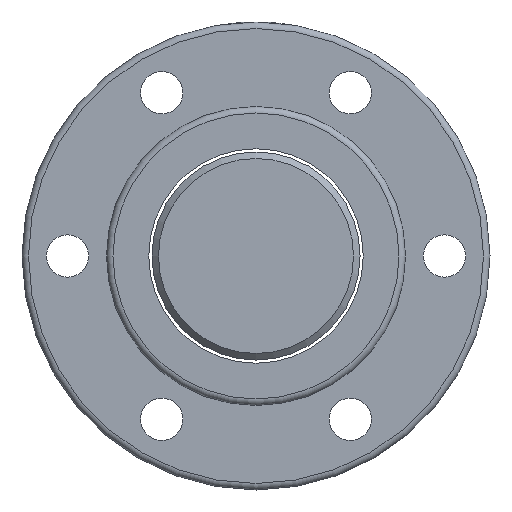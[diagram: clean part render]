
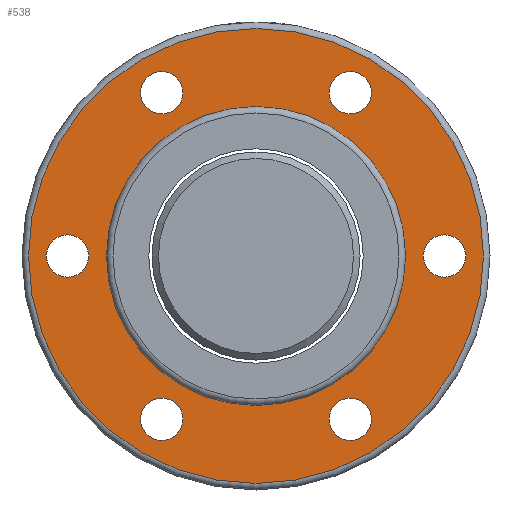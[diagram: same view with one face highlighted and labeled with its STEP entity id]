
A CAD part, left-side view. The second image highlights one B-rep face of the part: STEP entity #538.
In plain terms, the highlighted planar face has unit normal (-1, 0, 0).
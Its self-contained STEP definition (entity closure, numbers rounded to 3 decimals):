
#141=ORIENTED_EDGE('',*,*,#219,.F.);
#142=ORIENTED_EDGE('',*,*,#227,.T.);
#143=ORIENTED_EDGE('',*,*,#217,.F.);
#144=ORIENTED_EDGE('',*,*,#213,.F.);
#145=ORIENTED_EDGE('',*,*,#209,.F.);
#146=ORIENTED_EDGE('',*,*,#205,.F.);
#147=ORIENTED_EDGE('',*,*,#201,.F.);
#148=ORIENTED_EDGE('',*,*,#197,.F.);
#197=EDGE_CURVE('',#249,#249,#295,.T.);
#201=EDGE_CURVE('',#253,#253,#299,.T.);
#205=EDGE_CURVE('',#257,#257,#303,.T.);
#209=EDGE_CURVE('',#261,#261,#307,.T.);
#213=EDGE_CURVE('',#265,#265,#311,.T.);
#217=EDGE_CURVE('',#269,#269,#315,.T.);
#219=EDGE_CURVE('',#271,#271,#317,.T.);
#227=EDGE_CURVE('',#279,#279,#321,.T.);
#249=VERTEX_POINT('',#856);
#253=VERTEX_POINT('',#867);
#257=VERTEX_POINT('',#878);
#261=VERTEX_POINT('',#889);
#265=VERTEX_POINT('',#900);
#269=VERTEX_POINT('',#911);
#271=VERTEX_POINT('',#916);
#279=VERTEX_POINT('',#955);
#295=CIRCLE('',#590,3.25);
#299=CIRCLE('',#597,3.25);
#303=CIRCLE('',#604,3.25);
#307=CIRCLE('',#611,3.25);
#311=CIRCLE('',#618,3.25);
#315=CIRCLE('',#625,3.25);
#317=CIRCLE('',#628,35.);
#321=CIRCLE('',#636,23.);
#382=EDGE_LOOP('',(#141));
#383=EDGE_LOOP('',(#142));
#384=EDGE_LOOP('',(#143));
#385=EDGE_LOOP('',(#144));
#386=EDGE_LOOP('',(#145));
#387=EDGE_LOOP('',(#146));
#388=EDGE_LOOP('',(#147));
#389=EDGE_LOOP('',(#148));
#467=FACE_BOUND('',#382,.T.);
#468=FACE_BOUND('',#383,.T.);
#469=FACE_BOUND('',#384,.T.);
#470=FACE_BOUND('',#385,.T.);
#471=FACE_BOUND('',#386,.T.);
#472=FACE_BOUND('',#387,.T.);
#473=FACE_BOUND('',#388,.T.);
#474=FACE_BOUND('',#389,.T.);
#507=PLANE('',#637);
#538=ADVANCED_FACE('',(#467,#468,#469,#470,#471,#472,#473,#474),#507,.T.);
#590=AXIS2_PLACEMENT_3D('',#855,#685,#686);
#597=AXIS2_PLACEMENT_3D('',#866,#699,#700);
#604=AXIS2_PLACEMENT_3D('',#877,#713,#714);
#611=AXIS2_PLACEMENT_3D('',#888,#727,#728);
#618=AXIS2_PLACEMENT_3D('',#899,#741,#742);
#625=AXIS2_PLACEMENT_3D('',#910,#755,#756);
#628=AXIS2_PLACEMENT_3D('',#915,#761,#762);
#636=AXIS2_PLACEMENT_3D('',#954,#777,#778);
#637=AXIS2_PLACEMENT_3D('',#956,#779,#780);
#685=DIRECTION('',(-1.,0.,0.));
#686=DIRECTION('',(0.,0.,1.));
#699=DIRECTION('',(-1.,0.,0.));
#700=DIRECTION('',(0.,0.,1.));
#713=DIRECTION('',(-1.,0.,0.));
#714=DIRECTION('',(0.,0.,1.));
#727=DIRECTION('',(-1.,0.,0.));
#728=DIRECTION('',(0.,0.,1.));
#741=DIRECTION('',(-1.,0.,0.));
#742=DIRECTION('',(0.,0.,1.));
#755=DIRECTION('',(-1.,0.,0.));
#756=DIRECTION('',(0.,0.,1.));
#761=DIRECTION('',(1.,0.,0.));
#762=DIRECTION('',(0.,0.,-1.));
#777=DIRECTION('',(1.,0.,0.));
#778=DIRECTION('',(0.,0.,-1.));
#779=DIRECTION('',(-1.,0.,0.));
#780=DIRECTION('',(0.,0.,1.));
#855=CARTESIAN_POINT('',(-27.,29.,0.));
#856=CARTESIAN_POINT('',(-27.,29.,3.25));
#866=CARTESIAN_POINT('',(-27.,-29.,0.));
#867=CARTESIAN_POINT('',(-27.,-29.,3.25));
#877=CARTESIAN_POINT('',(-27.,14.5,-25.11));
#878=CARTESIAN_POINT('',(-27.,14.5,-21.86));
#888=CARTESIAN_POINT('',(-27.,-14.5,-25.11));
#889=CARTESIAN_POINT('',(-27.,-14.5,-21.86));
#899=CARTESIAN_POINT('',(-27.,-14.5,25.11));
#900=CARTESIAN_POINT('',(-27.,-14.5,28.36));
#910=CARTESIAN_POINT('',(-27.,14.5,25.11));
#911=CARTESIAN_POINT('',(-27.,14.5,28.36));
#915=CARTESIAN_POINT('',(-27.,0.,0.));
#916=CARTESIAN_POINT('',(-27.,0.,-35.));
#954=CARTESIAN_POINT('',(-27.,0.,0.));
#955=CARTESIAN_POINT('',(-27.,0.,-23.));
#956=CARTESIAN_POINT('',(-27.,29.,0.));
